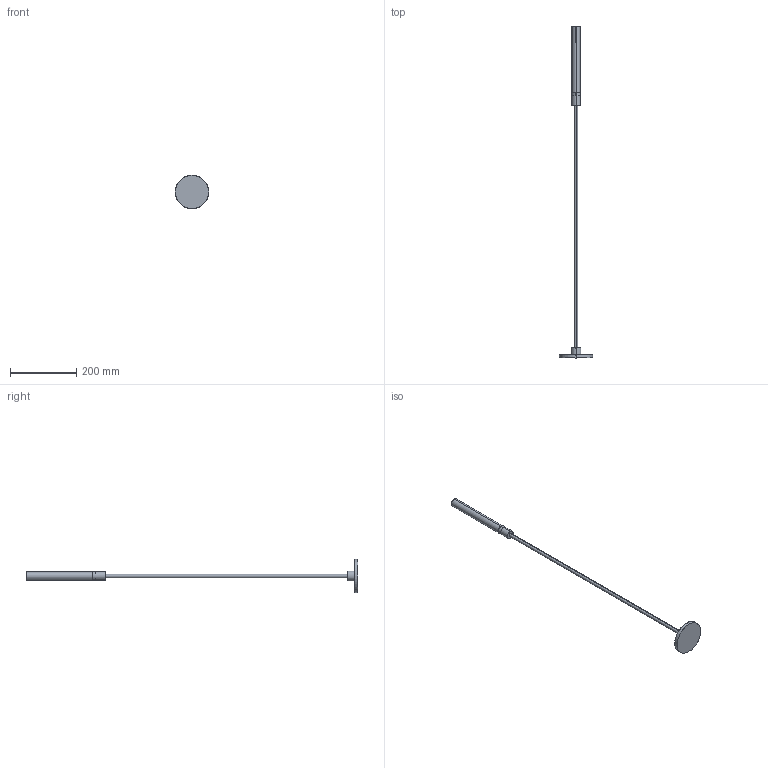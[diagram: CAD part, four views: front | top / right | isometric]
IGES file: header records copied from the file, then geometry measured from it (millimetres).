
Start section: SolidWorks IGES file using analytic representation for surfaces
Global section: file name: C:\Users\anna.bielnik\Desktop\ZOLA-LED-M\zola M.IGS; native system: SolidWorks 2023; preprocessor: SolidWorks 2023; author: anna.bielnik; date: 241128.135726; units: millimetre
Bounding box: 101 x 1005.2 x 101 mm (x, y, z)
Surface area: 65531.5 mm2 (no closed solid volume)
Topology: 0 solids, 0 shells, 24 faces, 600 edges, 600 vertices
Faces by surface type: revolution 14, bspline 10
